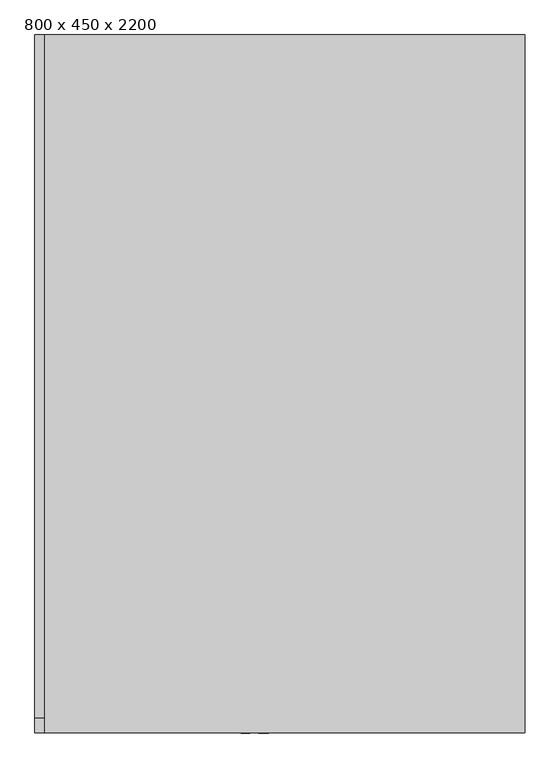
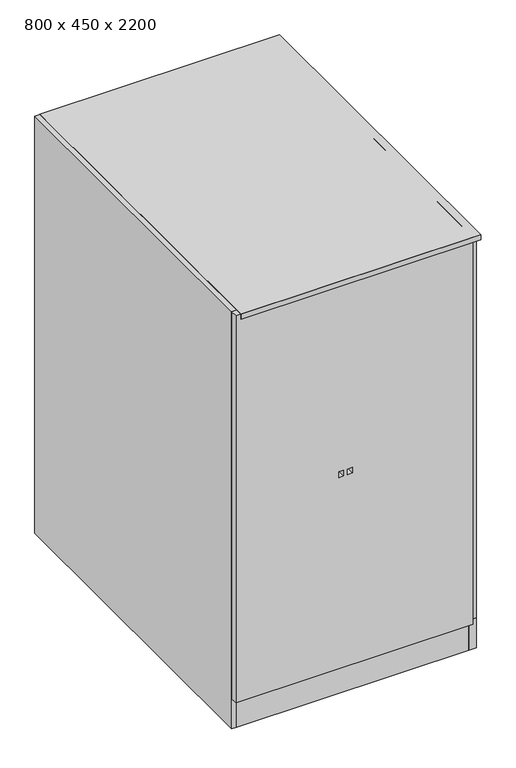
"""IFC4 building model written with IfcOpenShell, lengths in millimetres: furniture geometry, PAT C250 : 800 x 450 x 2200."""

from ifc_helpers import new_model, si_unit, frame, origin, origin_with_axes, place, context, project, spatial, polyline, outline, extrude, source, transform, mapped, element, save


def furniture_800_x_450_x_2200_895e6954(model_context):
    return source(origin(), model_context, "Body", "SweptSolid", [
        extrude(outline(polyline([(608.3182922, 30.0), (-371.6817078, 30.0), (-371.6817078, 50.0), (608.3182922, 50.0), (608.3182922, 30.0)])), origin_with_axes(), (0.0, 0.0, 1.0), 130.0),
        extrude(outline(polyline([(608.3182922, 1423.060025), (608.3182922, 0.0), (-371.6817078, 0.0), (-371.6817078, 1423.060025), (608.3182922, 1423.060025)])), frame((0.0, 0.0, 1780.0), z_axis=(0.0, 0.0, 1.0), x_axis=(1.0, 0.0, 0.0)), (0.0, 0.0, 1.0), 20.0),
        extrude(outline(polyline([(1800.0, 576.763875), (1800.0, -391.6817078), (130.0, -391.6817078), (130.0, 576.763875), (1800.0, 576.763875)]), holes=[polyline([(979.6552823, 84.8032095), (955.9808054, 84.8032095), (955.9808054, 64.3222411), (979.6552823, 64.3222411), (979.6552823, 84.8032095)]), polyline([(955.6657135, 47.8012157), (955.6657135, 29.0319571), (979.6552823, 29.0319571), (979.6552823, 47.8012157), (955.6657135, 47.8012157)])]), frame((0.0, 0.0, 0.0), z_axis=(0.0, 1.0, 0.0), x_axis=(0.0, 0.0, 1.0)), (0.0, 0.0, 1.0), 30.0),
        extrude(outline(polyline([(608.3182922, 1423.060025), (608.3182922, 30.0), (576.763875, 30.0), (576.763875, 1382.4246818), (-371.6817078, 1382.4246818), (-371.6817078, 30.0), (-391.6817078, 30.0), (-391.6817078, 1423.060025), (608.3182922, 1423.060025)])), origin_with_axes(), (0.0, 0.0, 1.0), 1800.0),
    ])


if __name__ == "__main__":
    model = new_model("IFC4")
    model_context = context("Model", 3, world=origin())
    ifc_project = project(units=[si_unit("LENGTHUNIT", "METRE", prefix="MILLI")], contexts=[model_context])
    site = spatial("IfcSite", under=ifc_project)
    building = spatial("IfcBuilding", under=site)
    placement = place(None, origin())
    furniture_800_x_450_x_2200_shape = furniture_800_x_450_x_2200_895e6954(model_context)
    element("IfcFurniture", 1, ObjectType="PAT C250 : 800 x 450 x 2200", at=placement, inside=building, context=model_context, shape_type="MappedRepresentation", body=[
        mapped(furniture_800_x_450_x_2200_shape, transform((0.0, 0.0, 0.0), x_axis=(1.0, 0.0, 0.0), y_axis=(0.0, 1.0, 0.0), z_axis=(0.0, 0.0, 1.0))),
    ])
    save(model, "model.ifc")
